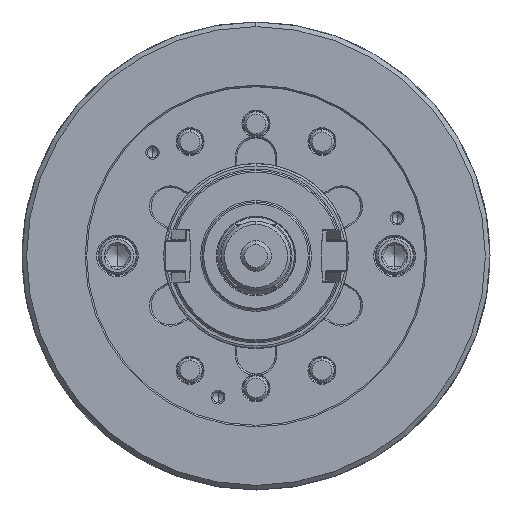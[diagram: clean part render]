
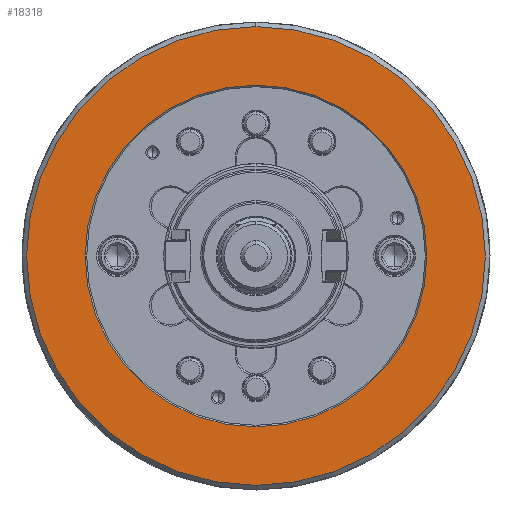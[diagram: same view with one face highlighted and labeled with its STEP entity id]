
A CAD part, left-side view. The second image highlights one B-rep face of the part: STEP entity #18318.
In plain terms, the highlighted planar face has unit normal (-1, 0, 0).
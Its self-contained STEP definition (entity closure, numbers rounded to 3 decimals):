
#5278 = ORIENTED_EDGE ( 'NONE', *, *, #26637, .F. ) ;
#6505 = AXIS2_PLACEMENT_3D ( 'NONE', #30661, #92291, #14176 ) ;
#9488 = VERTEX_POINT ( 'NONE', #25051 ) ;
#11919 = PLANE ( 'NONE',  #78707 ) ;
#14176 = DIRECTION ( 'NONE',  ( 0., 0., -1. ) ) ;
#14553 = DIRECTION ( 'NONE',  ( 0., 0., -1. ) ) ;
#16048 = EDGE_CURVE ( 'NONE', #9488, #109276, #106995, .T. ) ;
#16659 = CARTESIAN_POINT ( 'NONE',  ( -106., 0., 0. ) ) ;
#16769 = ORIENTED_EDGE ( 'NONE', *, *, #45985, .T. ) ;
#18318 = ADVANCED_FACE ( 'NONE', ( #55772, #88883 ), #11919, .F. ) ;
#25051 = CARTESIAN_POINT ( 'NONE',  ( -106., 0., -149. ) ) ;
#26637 = EDGE_CURVE ( 'NONE', #109276, #9488, #39680, .T. ) ;
#29774 = ORIENTED_EDGE ( 'NONE', *, *, #30238, .T. ) ;
#30086 = DIRECTION ( 'NONE',  ( 1., 0., 0. ) ) ;
#30238 = EDGE_CURVE ( 'NONE', #61520, #92531, #41362, .T. ) ;
#30661 = CARTESIAN_POINT ( 'NONE',  ( -106., 0., 0. ) ) ;
#32894 = DIRECTION ( 'NONE',  ( 0., 0., -1. ) ) ;
#39680 = CIRCLE ( 'NONE', #103427, 149. ) ;
#41362 = CIRCLE ( 'NONE', #112334, 111. ) ;
#45985 = EDGE_CURVE ( 'NONE', #92531, #61520, #72077, .T. ) ;
#48476 = DIRECTION ( 'NONE',  ( 1., 0., 0. ) ) ;
#51439 = DIRECTION ( 'NONE',  ( 0., 0., -1. ) ) ;
#55772 = FACE_OUTER_BOUND ( 'NONE', #69340, .T. ) ;
#57841 = AXIS2_PLACEMENT_3D ( 'NONE', #94476, #48476, #32894 ) ;
#61520 = VERTEX_POINT ( 'NONE', #99992 ) ;
#68752 = CARTESIAN_POINT ( 'NONE',  ( -106., 0., -111. ) ) ;
#69340 = EDGE_LOOP ( 'NONE', ( #109580, #5278 ) ) ;
#70774 = EDGE_LOOP ( 'NONE', ( #29774, #16769 ) ) ;
#72077 = CIRCLE ( 'NONE', #6505, 111. ) ;
#74378 = CARTESIAN_POINT ( 'NONE',  ( -106., 0., 0. ) ) ;
#77093 = DIRECTION ( 'NONE',  ( 1., 0., 0. ) ) ;
#78707 = AXIS2_PLACEMENT_3D ( 'NONE', #80912, #30086, #99701 ) ;
#80912 = CARTESIAN_POINT ( 'NONE',  ( -106., -149., 0. ) ) ;
#87431 = CARTESIAN_POINT ( 'NONE',  ( -106., 0., 149. ) ) ;
#88883 = FACE_BOUND ( 'NONE', #70774, .T. ) ;
#92291 = DIRECTION ( 'NONE',  ( 1., 0., 0. ) ) ;
#92531 = VERTEX_POINT ( 'NONE', #68752 ) ;
#94476 = CARTESIAN_POINT ( 'NONE',  ( -106., 0., 0. ) ) ;
#99701 = DIRECTION ( 'NONE',  ( 0., 0., -1. ) ) ;
#99992 = CARTESIAN_POINT ( 'NONE',  ( -106., 0., 111. ) ) ;
#103427 = AXIS2_PLACEMENT_3D ( 'NONE', #16659, #77093, #51439 ) ;
#106995 = CIRCLE ( 'NONE', #57841, 149. ) ;
#109161 = DIRECTION ( 'NONE',  ( 1., 0., 0. ) ) ;
#109276 = VERTEX_POINT ( 'NONE', #87431 ) ;
#109580 = ORIENTED_EDGE ( 'NONE', *, *, #16048, .F. ) ;
#112334 = AXIS2_PLACEMENT_3D ( 'NONE', #74378, #109161, #14553 ) ;
